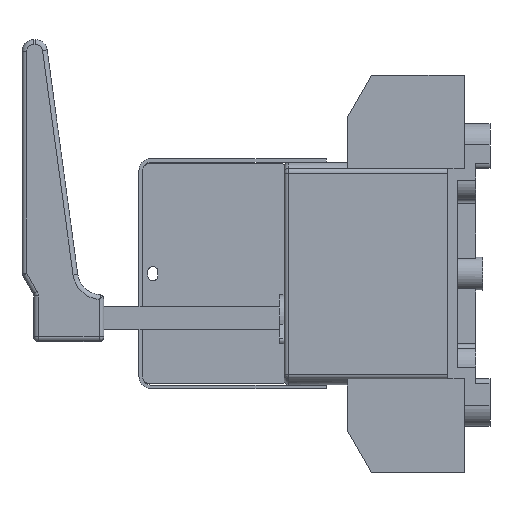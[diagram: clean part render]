
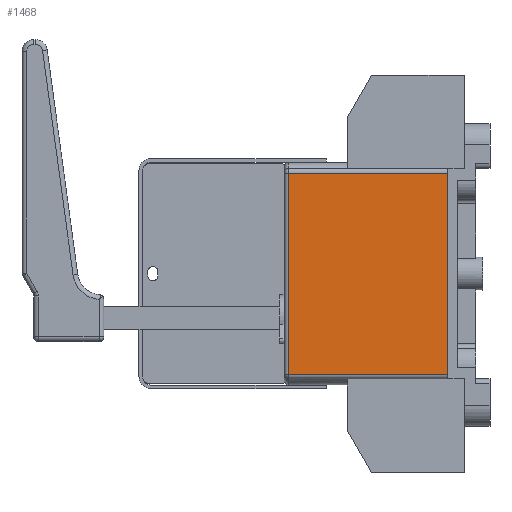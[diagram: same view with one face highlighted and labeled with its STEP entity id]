
A CAD part, left-side view. The second image highlights one B-rep face of the part: STEP entity #1468.
In plain terms, the highlighted planar face has unit normal (-1, 0, 0).
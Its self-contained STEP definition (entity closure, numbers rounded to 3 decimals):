
#1468=ADVANCED_FACE('',(#3028),#2425,.F.);
#2425=PLANE('',#18716);
#3028=FACE_OUTER_BOUND('',#3916,.T.);
#3916=EDGE_LOOP('',(#5337,#5338,#5339,#5340));
#5337=ORIENTED_EDGE('',*,*,#12374,.F.);
#5338=ORIENTED_EDGE('',*,*,#12375,.T.);
#5339=ORIENTED_EDGE('',*,*,#12371,.T.);
#5340=ORIENTED_EDGE('',*,*,#12376,.T.);
#10615=VERTEX_POINT('',#26118);
#10616=VERTEX_POINT('',#26119);
#10617=VERTEX_POINT('',#26124);
#10618=VERTEX_POINT('',#26125);
#12371=EDGE_CURVE('',#10615,#10616,#14976,.T.);
#12374=EDGE_CURVE('',#10617,#10618,#14977,.T.);
#12375=EDGE_CURVE('',#10617,#10615,#14978,.T.);
#12376=EDGE_CURVE('',#10616,#10618,#14979,.T.);
#14976=LINE('',#26117,#16897);
#14977=LINE('',#26123,#16898);
#14978=LINE('',#26126,#16899);
#14979=LINE('',#26127,#16900);
#16897=VECTOR('',#20663,1.);
#16898=VECTOR('',#20670,1.);
#16899=VECTOR('',#20671,1.);
#16900=VECTOR('',#20672,1.);
#18716=AXIS2_PLACEMENT_3D('',#26128,#20673,#20674);
#20663=DIRECTION('',(0.,-1.,0.));
#20670=DIRECTION('',(0.,-1.,0.));
#20671=DIRECTION('',(0.,0.,-1.));
#20672=DIRECTION('',(0.,0.,1.));
#20673=DIRECTION('',(1.,0.,0.));
#20674=DIRECTION('',(0.,0.,-1.));
#26117=CARTESIAN_POINT('',(-41.,35.,-43.));
#26118=CARTESIAN_POINT('',(-41.,68.,-43.));
#26119=CARTESIAN_POINT('',(-41.,0.,-43.));
#26123=CARTESIAN_POINT('',(-41.,35.,43.));
#26124=CARTESIAN_POINT('',(-41.,68.,43.));
#26125=CARTESIAN_POINT('',(-41.,0.,43.));
#26126=CARTESIAN_POINT('',(-41.,68.,-43.));
#26127=CARTESIAN_POINT('',(-41.,0.,-43.));
#26128=CARTESIAN_POINT('',(-41.,35.,-43.));
